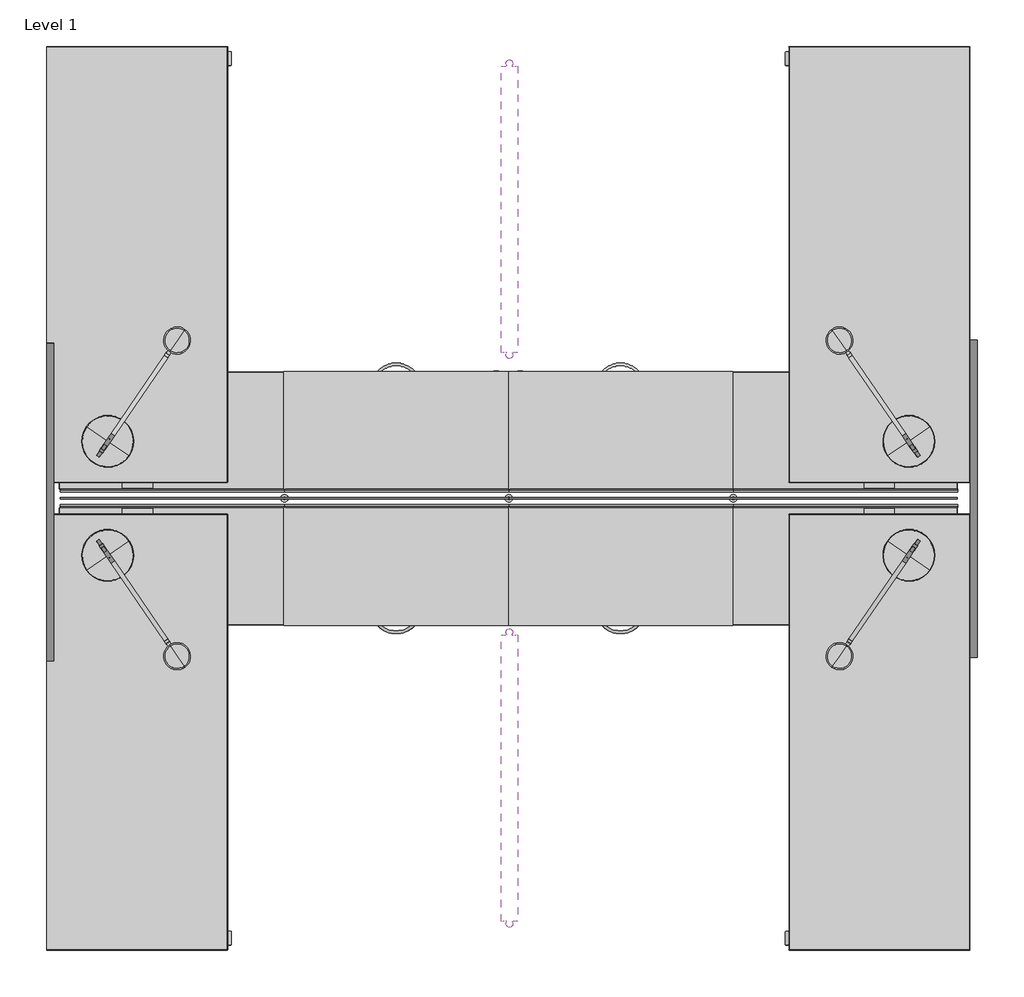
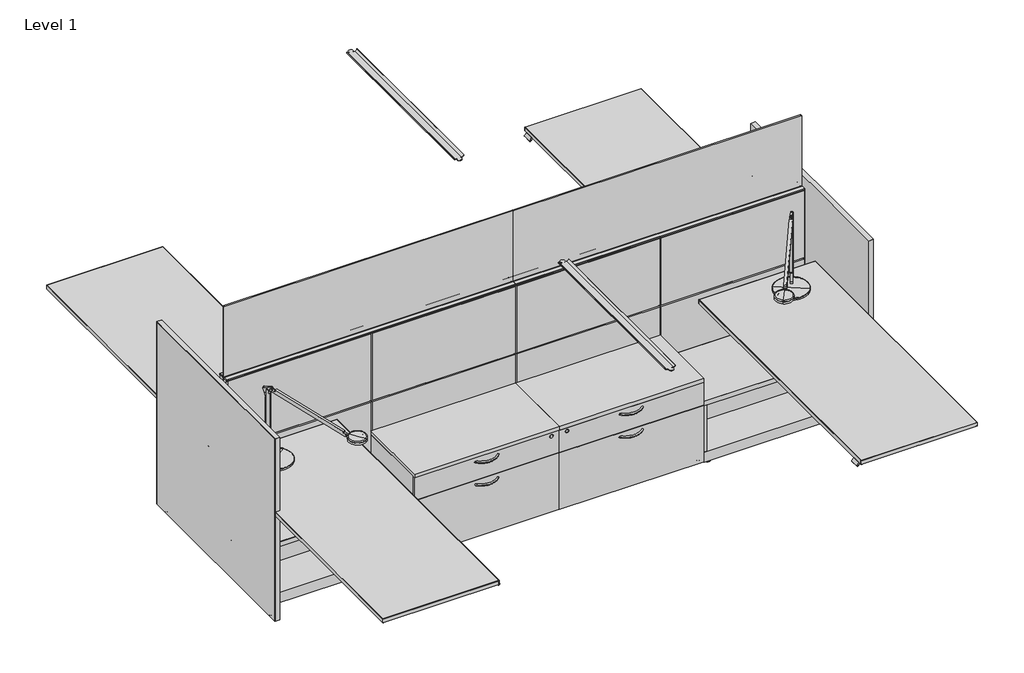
# One storey, incomplete: 28 furniture elements.
"""IFC4 building model written with IfcOpenShell, lengths in millimetres."""

from ifc_helpers import new_model, si_unit, origin, place, context, project, spatial, transform, mapped, element, save
from components import furniture_0e0e5a21, furniture_cb8786ba, furniture_a5cb4bbb, furniture_30cb4992, furniture_66b91132, furniture_dd05c5c4, furniture_36w_1_high_a5aa46c4, furniture_36w_1_high_e17e84c3, furniture_48w_9118acb4, steelcase_answer_solution_panel_48h_base_panel_36w_c58aae0b, steelcase_answer_solution_panel_48h_base_panel_36w_b2736a18, steelcase_answer_solution_panel_48h_base_panel_36w_4aefc7d7, steelcase_worktool_lighting_dash_led_light_freestanding_fd4244e6, steelcase_worktool_lighting_dash_led_light_freestanding_8461dae6

model = new_model("IFC4")

# Units and contexts
model_context = context("Model", 3, world=origin())
ifc_project = project(units=[si_unit("LENGTHUNIT", "METRE", prefix="MILLI")], contexts=[model_context])

# Site, building, storey
site = spatial("IfcSite", under=ifc_project)
building = spatial("IfcBuilding", under=site)
storey = spatial("IfcBuildingStorey", under=building, Name="Level 1", Elevation=0.0)

# Furniture
placement = place(None, origin())
furniture_shape = furniture_0e0e5a21(model_context)
element("IfcFurniture", 1, ObjectType="Steelcase - Migration SE - Desk - Rectangular - T Leg : 29D x 70W", at=placement, inside=storey, context=model_context, shape_type="MappedRepresentation", body=[
    mapped(furniture_shape, transform((-39203.2865041, -277626.2199897, 0.0), x_axis=(0.0, 1.0, 0.0), y_axis=(-1.0, 0.0, 0.0), z_axis=(0.0, 0.0, 1.0))),
])
element("IfcFurniture", 2, ObjectType="Steelcase - Migration SE - Desk - Rectangular - T Leg : 29D x 70W", at=placement, inside=storey, context=model_context, shape_type="MappedRepresentation", body=[
    mapped(furniture_shape, transform((-36011.827046, -275415.3531897, 0.0), x_axis=(0.0, -1.0, 0.0), y_axis=(1.0, 0.0, 0.0), z_axis=(0.0, 0.0, 1.0))),
])
furniture_2_shape = furniture_cb8786ba(model_context)
element("IfcFurniture", 3, ObjectType="Steelcase - Universal Laminate Enhanced Storage - Low Storage : 1.5 High - Drawer/Drawer - 18 7/8D x 36W", at=placement, inside=storey, context=model_context, shape_type="MappedRepresentation", body=[
    mapped(furniture_2_shape, transform((-38521.956775, -276558.73419, 0.0), x_axis=(1.0, 0.0, 0.0), y_axis=(0.0, 1.0, 0.0), z_axis=(0.0, 0.0, 1.0))),
])
element("IfcFurniture", 4, ObjectType="Steelcase - Universal Laminate Enhanced Storage - Low Storage : 1.5 High - Drawer/Drawer - 18 7/8D x 36W", at=placement, inside=storey, context=model_context, shape_type="MappedRepresentation", body=[
    mapped(furniture_2_shape, transform((-36693.156775, -276482.8389894, 0.0), x_axis=(-1.0, 0.0, 0.0), y_axis=(0.0, -1.0, 0.0), z_axis=(0.0, 0.0, 1.0))),
])
furniture_3_shape = furniture_a5cb4bbb(model_context)
element("IfcFurniture", 5, ObjectType="Steelcase - Universal Laminate Enhanced Storage - Low Storage : 1.5 High - Drawer/Drawer - 18 7/8D x 36W", at=placement, inside=storey, context=model_context, shape_type="MappedRepresentation", body=[
    mapped(furniture_3_shape, transform((-36693.156775, -276558.73419, 0.0), x_axis=(-1.0, 0.0, 0.0), y_axis=(0.0, -1.0, 0.0), z_axis=(0.0, 0.0, 1.0))),
])
element("IfcFurniture", 6, ObjectType="Steelcase - Universal Laminate Enhanced Storage - Low Storage : 1.5 High - Drawer/Drawer - 18 7/8D x 36W", at=placement, inside=storey, context=model_context, shape_type="MappedRepresentation", body=[
    mapped(furniture_3_shape, transform((-38521.956775, -276482.8389894, 0.0), x_axis=(1.0, 0.0, 0.0), y_axis=(0.0, 1.0, 0.0), z_axis=(0.0, 0.0, 1.0))),
])
furniture_4_shape = furniture_30cb4992(model_context)
element("IfcFurniture", 7, ObjectType="Steelcase - Migration SE - Desk - Rectangular - T Leg : 29D x 70W", at=placement, inside=storey, context=model_context, shape_type="MappedRepresentation", body=[
    mapped(furniture_4_shape, transform((-36011.827046, -277626.2199897, 0.0), x_axis=(0.0, 1.0, 0.0), y_axis=(-1.0, 0.0, 0.0), z_axis=(0.0, 0.0, 1.0))),
])
element("IfcFurniture", 8, ObjectType="Steelcase - Migration SE - Desk - Rectangular - T Leg : 29D x 70W", at=placement, inside=storey, context=model_context, shape_type="MappedRepresentation", body=[
    mapped(furniture_4_shape, transform((-39203.2865041, -275415.3531897, 0.0), x_axis=(0.0, -1.0, 0.0), y_axis=(1.0, 0.0, 0.0), z_axis=(0.0, 0.0, 1.0))),
])
furniture_5_shape = furniture_66b91132(model_context)
element("IfcFurniture", 9, ObjectType="Steelcase - Answer Solution - Panel - Frameless Glass Screen - Recessed : 18H x 72W", at=placement, inside=storey, context=model_context, shape_type="MappedRepresentation", body=[
    mapped(furniture_5_shape, transform((-38519.5755249, -276520.7865897, 482.6), x_axis=(1.0, 0.0, 0.0), y_axis=(0.0, 1.0, 0.0), z_axis=(0.0, 0.0, 1.0))),
])
element("IfcFurniture", 10, ObjectType="Steelcase - Answer Solution - Panel - Frameless Glass Screen - Recessed : 18H x 72W", at=placement, inside=storey, context=model_context, shape_type="MappedRepresentation", body=[
    mapped(furniture_5_shape, transform((-36690.7755249, -276520.7865897, 482.6), x_axis=(1.0, 0.0, 0.0), y_axis=(0.0, 1.0, 0.0), z_axis=(0.0, 0.0, 1.0))),
])
furniture_6_shape = furniture_dd05c5c4(model_context)
element("IfcFurniture", 11, ObjectType="Steelcase - Answer Solution - Boundary Screen - Straight - Spanning : 48H x 51W", at=placement, inside=storey, context=model_context, shape_type="MappedRepresentation", body=[
    mapped(furniture_6_shape, transform((-35695.8856913, -276292.5549018, 0.0), x_axis=(-3.3924352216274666e-10, -1.0000000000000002, 0.0), y_axis=(1.0000000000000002, -3.3924352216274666e-10, 0.0), z_axis=(0.0, 0.0, 1.0))),
])
element("IfcFurniture", 12, ObjectType="Steelcase - Answer Solution - Boundary Screen - Straight - Spanning : 48H x 51W", at=placement, inside=storey, context=model_context, shape_type="MappedRepresentation", body=[
    mapped(furniture_6_shape, transform((-39489.0653582, -276765.7655808, 0.0), x_axis=(3.392409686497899e-10, 1.0, 0.0), y_axis=(-1.0, 3.392409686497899e-10, 0.0), z_axis=(0.0, 0.0, 1.0))),
])
furniture_36w_1_high_shape = furniture_36w_1_high_a5aa46c4(model_context)
element("IfcFurniture", 13, ObjectType="Steelcase - Migration SE - Storage - Universal - Open : 36W - 1 High", at=placement, inside=storey, context=model_context, shape_type="MappedRepresentation", body=[
    mapped(furniture_36w_1_high_shape, transform((-38523.8843791, -272575.7431566, 0.0), x_axis=(0.0, -1.0, 0.0), y_axis=(1.0, 0.0, 0.0), z_axis=(0.0, 0.0, 1.0))),
])
element("IfcFurniture", 14, ObjectType="Steelcase - Migration SE - Storage - Universal - Open : 36W - 1 High", at=placement, inside=storey, context=model_context, shape_type="MappedRepresentation", body=[
    mapped(furniture_36w_1_high_shape, transform((-36691.229171, -280465.8300228, 0.0), x_axis=(0.0, 1.0, 0.0), y_axis=(-1.0, 0.0, 0.0), z_axis=(0.0, 0.0, 1.0))),
])
element("IfcFurniture", 15, ObjectType="Steelcase - Migration SE - Storage - Universal - Open : 36W - 1 High", at=placement, inside=storey, context=model_context, shape_type="MappedRepresentation", body=[
    mapped(furniture_36w_1_high_shape, transform((-36691.229171, -280465.8300228, 0.0), x_axis=(0.0, 1.0, 0.0), y_axis=(-1.0, 0.0, 0.0), z_axis=(0.0, 0.0, 1.0))),
])
furniture_36w_1_high_2_shape = furniture_36w_1_high_e17e84c3(model_context)
element("IfcFurniture", 16, ObjectType="Steelcase - Migration SE - Storage - Universal - Open : 36W - 1 High", at=placement, inside=storey, context=model_context, shape_type="MappedRepresentation", body=[
    mapped(furniture_36w_1_high_2_shape, transform((-36691.229171, -272575.7431566, 0.0), x_axis=(0.0, -1.0, 0.0), y_axis=(1.0, 0.0, 0.0), z_axis=(0.0, 0.0, 1.0))),
])
element("IfcFurniture", 17, ObjectType="Steelcase - Migration SE - Storage - Universal - Open : 36W - 1 High", at=placement, inside=storey, context=model_context, shape_type="MappedRepresentation", body=[
    mapped(furniture_36w_1_high_2_shape, transform((-36691.229171, -272575.7431566, 0.0), x_axis=(0.0, -1.0, 0.0), y_axis=(1.0, 0.0, 0.0), z_axis=(0.0, 0.0, 1.0))),
])
element("IfcFurniture", 18, ObjectType="Steelcase - Migration SE - Storage - Universal - Open : 36W - 1 High", at=placement, inside=storey, context=model_context, shape_type="MappedRepresentation", body=[
    mapped(furniture_36w_1_high_2_shape, transform((-38523.8843791, -280465.8300228, 0.0), x_axis=(0.0, 1.0, 0.0), y_axis=(-1.0, 0.0, 0.0), z_axis=(0.0, 0.0, 1.0))),
])
furniture_48w_shape = furniture_48w_9118acb4(model_context)
element("IfcFurniture", 19, ObjectType="Steelcase - Groupwork - Marker Tray : 48W", at=placement, inside=storey, context=model_context, shape_type="MappedRepresentation", body=[
    mapped(furniture_48w_shape, transform((-37368.885175, -278268.8567912, 0.0), x_axis=(0.0, 1.0, 0.0), y_axis=(-1.0, 0.0, 0.0), z_axis=(0.0, 0.0, 1.0))),
])
element("IfcFurniture", 20, ObjectType="Steelcase - Groupwork - Marker Tray : 48W", at=placement, inside=storey, context=model_context, shape_type="MappedRepresentation", body=[
    mapped(furniture_48w_shape, transform((-37368.885175, -275949.8775912, 0.0), x_axis=(0.0, 1.0, 0.0), y_axis=(-1.0, 0.0, 0.0), z_axis=(0.0, 0.0, 1.0))),
])
steelcase_answer_solution_panel_48h_base_panel_36w_shape = steelcase_answer_solution_panel_48h_base_panel_36w_c58aae0b(model_context)
element("IfcFurniture", 21, ObjectType="Steelcase - Answer Solution - Panel - 48H Base Panel : 36W", at=placement, inside=storey, context=model_context, shape_type="MappedRepresentation", body=[
    mapped(steelcase_answer_solution_panel_48h_base_panel_36w_shape, transform((-38976.7755249, -276520.7865897, 0.0), x_axis=(1.0, 0.0, 0.0), y_axis=(0.0, 1.0, 0.0), z_axis=(0.0, 0.0, 1.0))),
])
element("IfcFurniture", 22, ObjectType="Steelcase - Answer Solution - Panel - 48H Base Panel : 36W", at=placement, inside=storey, context=model_context, shape_type="MappedRepresentation", body=[
    mapped(steelcase_answer_solution_panel_48h_base_panel_36w_shape, transform((-37147.9755249, -276520.7865897, 0.0), x_axis=(1.0, 0.0, 0.0), y_axis=(0.0, 1.0, 0.0), z_axis=(0.0, 0.0, 1.0))),
])
steelcase_answer_solution_panel_48h_base_panel_36w_2_shape = steelcase_answer_solution_panel_48h_base_panel_36w_b2736a18(model_context)
element("IfcFurniture", 23, ObjectType="Steelcase - Answer Solution - Panel - 48H Base Panel : 36W", at=placement, inside=storey, context=model_context, shape_type="MappedRepresentation", body=[
    mapped(steelcase_answer_solution_panel_48h_base_panel_36w_2_shape, transform((-38062.3755249, -276520.7865897, 0.0), x_axis=(1.0, 0.0, 0.0), y_axis=(0.0, 1.0, 0.0), z_axis=(0.0, 0.0, 1.0))),
])
steelcase_answer_solution_panel_48h_base_panel_36w_3_shape = steelcase_answer_solution_panel_48h_base_panel_36w_4aefc7d7(model_context)
element("IfcFurniture", 24, ObjectType="Steelcase - Answer Solution - Panel - 48H Base Panel : 36W", at=placement, inside=storey, context=model_context, shape_type="MappedRepresentation", body=[
    mapped(steelcase_answer_solution_panel_48h_base_panel_36w_3_shape, transform((-36233.5755249, -276520.7865897, 0.0), x_axis=(1.0, 0.0, 0.0), y_axis=(0.0, 1.0, 0.0), z_axis=(0.0, 0.0, 1.0))),
])
steelcase_worktool_lighting_dash_led_light_freestanding_shape = steelcase_worktool_lighting_dash_led_light_freestanding_fd4244e6(model_context)
element("IfcFurniture", 25, ObjectType="Steelcase - Worktool - Lighting - Dash LED Light : Freestanding", at=placement, inside=storey, context=model_context, shape_type="MappedRepresentation", body=[
    mapped(steelcase_worktool_lighting_dash_led_light_freestanding_shape, transform((-39302.9340043, -276658.6219365, -134.7455244), x_axis=(0.825507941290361, 0.5643905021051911, 0.0), y_axis=(-0.5643905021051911, 0.825507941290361, 0.0), z_axis=(0.0, 0.0, 1.0))),
])
element("IfcFurniture", 26, ObjectType="Steelcase - Worktool - Lighting - Dash LED Light : Freestanding", at=placement, inside=storey, context=model_context, shape_type="MappedRepresentation", body=[
    mapped(steelcase_worktool_lighting_dash_led_light_freestanding_shape, transform((-35912.1795458, -276382.9512428, -134.7455244), x_axis=(-0.825507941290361, -0.5643905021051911, 0.0), y_axis=(0.5643905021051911, -0.825507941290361, 0.0), z_axis=(0.0, 0.0, 1.0))),
])
steelcase_worktool_lighting_dash_led_light_freestanding_2_shape = steelcase_worktool_lighting_dash_led_light_freestanding_8461dae6(model_context)
element("IfcFurniture", 27, ObjectType="Steelcase - Worktool - Lighting - Dash LED Light : Freestanding", at=placement, inside=storey, context=model_context, shape_type="MappedRepresentation", body=[
    mapped(steelcase_worktool_lighting_dash_led_light_freestanding_2_shape, transform((-35912.1795458, -276658.6219365, -134.7455244), x_axis=(-0.825507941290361, 0.5643905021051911, 0.0), y_axis=(-0.5643905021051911, -0.825507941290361, 0.0), z_axis=(0.0, 0.0, 1.0))),
])
element("IfcFurniture", 28, ObjectType="Steelcase - Worktool - Lighting - Dash LED Light : Freestanding", at=placement, inside=storey, context=model_context, shape_type="MappedRepresentation", body=[
    mapped(steelcase_worktool_lighting_dash_led_light_freestanding_2_shape, transform((-39302.9340043, -276382.9512428, -134.7455244), x_axis=(0.825507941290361, -0.5643905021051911, 0.0), y_axis=(0.5643905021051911, 0.825507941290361, 0.0), z_axis=(0.0, 0.0, 1.0))),
])

save(model, "model.ifc")
